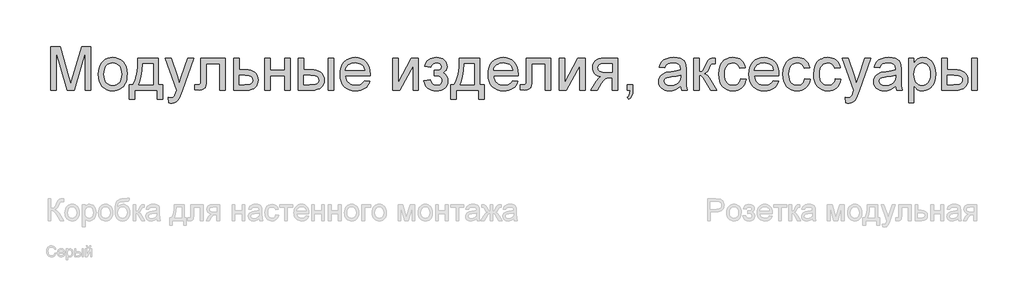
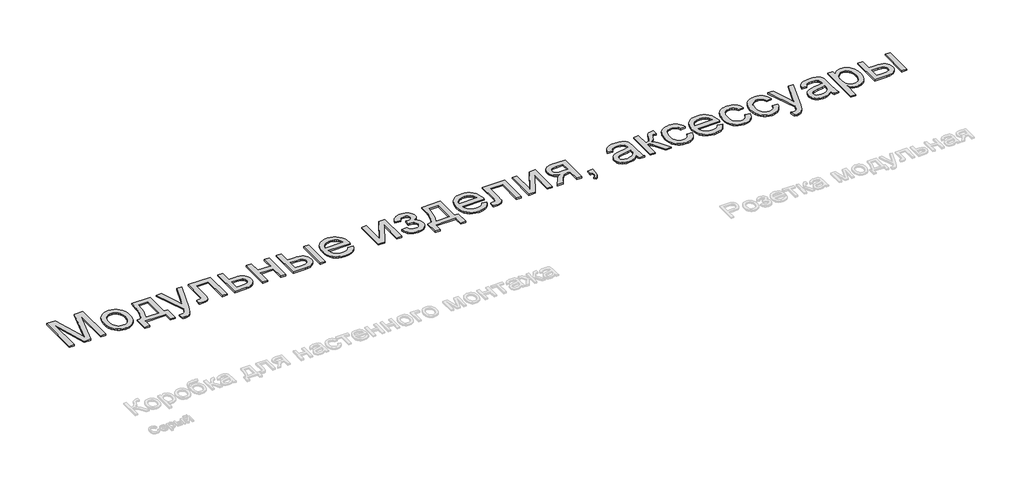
# One storey, part 96 of 168: 1 proxy.
"""IFC4 building model written with IfcOpenShell, lengths in millimetres."""

from ifc_helpers import new_model, si_unit, origin, origin_with_axes, place, context, project, spatial, polyline, outline, extrude, element, save

model = new_model("IFC4")

# Units and contexts
model_context = context("Model", 3, world=origin())
ifc_project = project(units=[si_unit("LENGTHUNIT", "METRE", prefix="MILLI")], contexts=[model_context])

# Site, building, storey
site = spatial("IfcSite", under=ifc_project)
building = spatial("IfcBuilding", under=site)
storey = spatial("IfcBuildingStorey", under=building, Name="Этаж 01", Elevation=0.0)

# Proxy
placement = place(None, origin())
element("IfcBuildingElementProxy", 1, Name="600 мм Arial", ObjectType="600 мм Arial", at=placement, inside=storey, context=model_context, shape_type="SweptSolid", body=[
    extrude(outline(polyline([(32932.0567284, -29166.8622977), (32932.0567284, -28564.1244368), (33061.6983435, -28564.1244368), (33185.0123883, -28988.9545649), (33209.8812112, -29077.6877021), (33236.8101732, -28981.596925), (33358.0640788, -28564.1244368), (33487.7056939, -28564.1244368), (33487.7056939, -29166.8622977), (33412.3634613, -29166.8622977), (33412.3634613, -28639.4666694), (33260.9432321, -29166.8622977), (33158.8191903, -29166.8622977), (33007.398961, -28639.4666694), (33007.398961, -29166.8622977), (32932.0567284, -29166.8622977)])), origin_with_axes(), (0.0, 0.0, 1.0), 20.0),
    extrude(outline(polyline([(33591.3012638, -28945.5444894), (33595.3755569, -28888.2192775), (33607.5984362, -28838.8219226), (33627.9699017, -28797.3524247), (33656.4899533, -28763.8107838), (33685.2031431, -28742.3724605), (33716.8961769, -28727.0593725), (33751.569055, -28717.8715197), (33789.2217772, -28714.8089021), (33830.7878441, -28718.5383058), (33868.3715884, -28729.726517), (33901.9730102, -28748.3735356), (33931.5921093, -28774.4793617), (33955.7665549, -28807.1610784), (33973.0340161, -28845.535769), (33983.3944928, -28889.6034335), (33986.847985, -28939.3640719), (33985.3212747, -28979.6931356), (33980.7411439, -29015.4788567), (33973.1075925, -29046.7212352), (33962.4206205, -29073.420271), (33948.8135852, -29096.4818735), (33932.4198438, -29116.8119523), (33913.2393963, -29134.4105072), (33891.2722426, -29149.2775384), (33867.3737085, -29161.0911489), (33842.3991196, -29169.5294422), (33816.3484758, -29174.5924182), (33789.2217772, -29176.2800768), (33747.048705, -29172.5644687), (33709.1154727, -29161.4176442), (33675.4220805, -29142.8396034), (33645.9685283, -29116.8303464), (33622.0516001, -29083.8313314), (33604.9680799, -29044.2840169), (33594.7179678, -28998.1884029), (33591.3012638, -28945.5444894)]), holes=[polyline([(33666.6434964, -28945.3973366), (33668.8231972, -28981.9418143), (33675.3622997, -29013.5842644), (33686.2608038, -29040.324687), (33701.5187095, -29062.1630819), (33720.0783562, -29079.1270404), (33740.882083, -29091.2441536), (33763.92989, -29098.5144216), (33789.2217772, -29100.9378442), (33814.3849057, -29098.500626), (33837.3407422, -29091.1889713), (33858.0892867, -29079.0028802), (33876.6305392, -29061.9423527), (33891.888445, -29039.8878271), (33902.7869491, -29012.7197418), (33909.3260516, -28980.4380967), (33911.5057524, -28943.0428919), (33909.312256, -28907.6572425), (33902.7317668, -28876.8425268), (33891.7642848, -28850.598745), (33876.40981, -28828.925897), (33857.7995796, -28811.9619385), (33837.0648307, -28799.8448252), (33814.2055632, -28792.5745573), (33789.2217772, -28790.1511347), (33763.92989, -28792.5653603), (33740.882083, -28799.808037), (33720.0783562, -28811.879165), (33701.5187095, -28828.7787442), (33686.2608038, -28850.5527598), (33675.3622997, -28877.247197), (33668.8231972, -28908.862056), (33666.6434964, -28945.3973366)])]), origin_with_axes(), (0.0, 0.0, 1.0), 20.0),
    extrude(outline(polyline([(34137.5324502, -28724.2266811), (34420.0658225, -28724.2266811), (34420.0658225, -29091.5200651), (34476.572497, -29091.5200651), (34476.572497, -29289.2934257), (34401.2302644, -29289.2934257), (34401.2302644, -29166.8622977), (34090.4435548, -29166.8622977), (34090.4435548, -29289.2934257), (34015.1013222, -29289.2934257), (34015.1013222, -29091.5200651), (34062.1902176, -29091.5200651), (34080.5889159, -29063.0873854), (34096.4216373, -29029.6607076), (34109.6883817, -28991.2400318), (34120.3891492, -28947.8253578), (34128.5239399, -28899.4166858), (34134.0927536, -28846.0140156), (34137.5324502, -28724.2266811)]), holes=[polyline([(34203.4569038, -28799.5689137), (34197.2764862, -28891.815324), (34185.798568, -28971.2226527), (34169.023149, -29037.7908997), (34146.9502293, -29091.5200651), (34344.7235899, -29091.5200651), (34344.7235899, -28799.5689137), (34203.4569038, -28799.5689137)])]), origin_with_axes(), (0.0, 0.0, 1.0), 20.0),
    extrude(outline(polyline([(34561.3325087, -29336.3823211), (34551.9147296, -29263.8359917), (34590.1744571, -29270.4578676), (34610.2976022, -29268.3793343), (34625.932587, -29262.1437345), (34638.1094811, -29252.1925265), (34647.8583539, -29238.9671688), (34668.4597457, -29183.4905639), (34674.3458576, -29165.243617), (34514.2436133, -28724.2266811), (34593.7061242, -28724.2266811), (34678.6132887, -28969.9718539), (34708.1910011, -29068.269923), (34737.7687136, -28981.4497722), (34825.0303228, -28724.2266811), (34903.9042226, -28724.2266811), (34749.835243, -29177.4572992), (34709.8096819, -29275.7553683), (34689.3186548, -29307.1357025), (34666.1053009, -29328.8775284), (34639.1395506, -29341.5694572), (34607.3913345, -29345.8001002), (34585.5759321, -29343.4456554), (34561.3325087, -29336.3823211)])), origin_with_axes(), (0.0, 0.0, 1.0), 20.0),
    extrude(outline(polyline([(35003.9681253, -28724.2266811), (35343.008172, -28724.2266811), (35343.008172, -29166.4208393), (35267.6659394, -29166.4208393), (35267.6659394, -28799.5689137), (35079.3103579, -28799.5689137), (35079.3103579, -29010.733179), (35078.041165, -29072.0223194), (35074.2335863, -29108.1483313), (35064.7238368, -29130.2028569), (35046.3481311, -29149.2775384), (35018.4626759, -29162.4661079), (34980.4236776, -29166.8622977), (34919.2081136, -29163.036325), (34919.2081136, -29091.5200651), (34952.9061043, -29091.5200651), (34973.3419492, -29090.3612368), (34986.9719771, -29086.884752), (34995.4884453, -29080.8882755), (35000.5836109, -29072.1694722), (35003.9681253, -29006.4657478), (35003.9681253, -28724.2266811)])), origin_with_axes(), (0.0, 0.0, 1.0), 20.0),
    extrude(outline(polyline([(35456.0215209, -28724.2266811), (35531.3637535, -28724.2266811), (35531.3637535, -28884.3289254), (35618.1839044, -28884.3289254), (35658.2646478, -28886.6879687), (35693.4525606, -28893.7650986), (35723.7476429, -28905.5603151), (35749.1498947, -28922.0736181), (35769.2362516, -28942.7347907), (35783.5836494, -28966.9736157), (35792.1920881, -28994.790093), (35795.0615677, -29026.1842228), (35792.6197509, -29054.1938382), (35785.2943007, -29080.0973292), (35773.085217, -29103.8946957), (35755.9924998, -29125.5859379), (35733.5287055, -29143.6443453), (35705.2063904, -29156.5432078), (35671.0255545, -29164.2825252), (35630.9861978, -29166.8622977), (35456.0215209, -29166.8622977), (35456.0215209, -28724.2266811)]), holes=[polyline([(35531.3637535, -29091.5200651), (35601.702791, -29091.5200651), (35656.278085, -29087.5653337), (35676.7093313, -29082.6219194), (35692.5696438, -29075.7011393), (35704.4476338, -29066.6834319), (35712.9319123, -29055.4492355), (35718.0224794, -29041.99855), (35719.7193351, -29026.3313756), (35714.6977458, -29001.7200701), (35699.6329781, -28979.9782442), (35686.5409776, -28971.093894), (35667.3513331, -28964.7479296), (35610.6791117, -28959.6711581), (35531.3637535, -28959.6711581), (35531.3637535, -29091.5200651)])]), origin_with_axes(), (0.0, 0.0, 1.0), 20.0),
    extrude(outline(polyline([(35889.2393585, -28724.2266811), (35964.5815911, -28724.2266811), (35964.5815911, -28893.7467045), (36162.3549517, -28893.7467045), (36162.3549517, -28724.2266811), (36237.6971843, -28724.2266811), (36237.6971843, -29166.8622977), (36162.3549517, -29166.8622977), (36162.3549517, -28969.0889371), (35964.5815911, -28969.0889371), (35964.5815911, -29166.8622977), (35889.2393585, -29166.8622977), (35889.2393585, -28724.2266811)])), origin_with_axes(), (0.0, 0.0, 1.0), 20.0),
    extrude(outline(polyline([(36765.0928126, -28724.2266811), (36840.4350452, -28724.2266811), (36840.4350452, -29166.8622977), (36765.0928126, -29166.8622977), (36765.0928126, -28724.2266811)])), origin_with_axes(), (0.0, 0.0, 1.0), 20.0),
    extrude(outline(polyline([(36350.7105332, -28724.2266811), (36426.0527658, -28724.2266811), (36426.0527658, -28884.3289254), (36519.200487, -28884.3289254), (36562.063338, -28886.6879687), (36599.7114616, -28893.7650986), (36632.144858, -28905.5603151), (36659.3635272, -28922.0736181), (36680.8984195, -28942.7347907), (36696.2804854, -28966.9736157), (36705.5097249, -28994.790093), (36708.5861381, -29026.1842228), (36706.0063656, -29054.1938382), (36698.2670481, -29080.0973292), (36685.3681857, -29103.8946957), (36667.3097783, -29125.5859379), (36643.5859881, -29143.6443453), (36613.6909775, -29156.5432078), (36577.6247464, -29164.2825252), (36535.3872948, -29166.8622977), (36350.7105332, -29166.8622977), (36350.7105332, -28724.2266811)]), holes=[polyline([(36426.0527658, -29091.5200651), (36503.4551376, -29091.5200651), (36563.456691, -29087.5653337), (36585.9250839, -29082.6219194), (36603.3718875, -29075.7011393), (36616.4408954, -29066.6834319), (36625.775901, -29055.4492355), (36631.3769044, -29041.99855), (36633.2439055, -29026.3313756), (36627.7072815, -29001.7200701), (36611.0974094, -28979.9782442), (36596.6810337, -28971.093894), (36575.5784028, -28964.7479296), (36513.3143751, -28959.6711581), (36426.0527658, -28959.6711581), (36426.0527658, -29091.5200651)])]), origin_with_axes(), (0.0, 0.0, 1.0), 20.0),
    extrude(outline(polyline([(37263.3521868, -29035.0133907), (37337.2228915, -29044.4311697), (37325.8967245, -29074.0180792), (37310.6066291, -29100.0917156), (37291.3526052, -29122.652079), (37268.1346528, -29141.6991693), (37241.1918952, -29156.8283163), (37210.7634556, -29167.6348499), (37176.8493342, -29174.1187701), (37139.4495309, -29176.2800768), (37092.7009263, -29172.5506731), (37051.0474874, -29161.3624619), (37014.4892142, -29142.7154433), (36983.0261065, -29116.6096172), (36957.7250223, -29083.7715506), (36939.6528193, -29044.9278104), (36928.8094975, -29000.0783967), (36925.1950569, -28949.2233094), (36928.8462857, -28896.6437752), (36939.7999721, -28850.2998409), (36958.0561161, -28810.1915064), (36983.6147177, -28776.3187717), (37014.9950519, -28749.4082037), (37050.7163936, -28730.1863695), (37090.7787429, -28718.6532689), (37135.1820997, -28714.8089021), (37178.1553153, -28718.6440719), (37217.0174495, -28730.1495813), (37251.7685025, -28749.3254303), (37282.4084742, -28776.1716189), (37307.4198513, -28809.9707772), (37325.2851207, -28850.0055353), (37336.0042824, -28896.2758932), (37339.5773362, -28948.781851), (37339.1358778, -28969.0889371), (37000.5372895, -28969.0889371), (37004.9012897, -28999.1540932), (37013.5787062, -29025.485247), (37026.5695392, -29048.0823985), (37043.8737885, -29066.9455478), (37064.5349611, -29081.8171775), (37087.5965636, -29092.4397701), (37113.0585962, -29098.8133257), (37140.9210588, -29100.9378442), (37181.0201963, -29097.0015068), (37214.7917635, -29085.1924948), (37242.2357603, -29064.7750441), (37263.3521868, -29035.0133907)]), holes=[polyline([(37000.5372895, -28893.7467045), (37264.2351036, -28893.7467045), (37254.0447724, -28853.9418726), (37245.2799838, -28838.2884937), (37234.06878, -28825.4678062), (37213.5225706, -28810.0167624), (37190.1436698, -28798.9803026), (37163.9320776, -28792.3584266), (37134.8877941, -28790.1511347), (37108.3956919, -28791.9123697), (37084.1016847, -28797.1960749), (37062.0057724, -28806.0022501), (37042.1079549, -28818.3308955), (37025.4107109, -28833.6117939), (37012.9165186, -28851.2747282), (37004.6253782, -28871.3196984), (37000.5372895, -28893.7467045)])]), origin_with_axes(), (0.0, 0.0, 1.0), 20.0),
    extrude(outline(polyline([(37650.3640458, -28724.2266811), (37725.7062784, -28724.2266811), (37725.7062784, -29061.7951999), (37910.8244984, -28724.2266811), (38008.2396507, -28724.2266811), (38008.2396507, -29166.8622977), (37932.8974181, -29166.8622977), (37932.8974181, -28831.3539181), (37748.9564205, -29166.8622977), (37650.3640458, -29166.8622977), (37650.3640458, -28724.2266811)])), origin_with_axes(), (0.0, 0.0, 1.0), 20.0),
    extrude(outline(polyline([(38224.8485694, -28969.0889371), (38224.8485694, -28893.7467045), (38284.2982999, -28890.8036486), (38299.7493437, -28885.5613301), (38314.3174707, -28875.1318756), (38324.9124721, -28860.4349899), (38328.4441393, -28842.390378), (38323.7168556, -28820.9612518), (38309.5350047, -28804.3513797), (38287.8851493, -28793.7011959), (38260.7538522, -28790.1511347), (38233.3282494, -28793.6828018), (38210.3540188, -28804.2778033), (38191.8311604, -28821.9361391), (38177.7596741, -28846.6578091), (38092.9996624, -28837.2400301), (38102.7761264, -28808.5452344), (38115.4772523, -28783.6764116), (38131.10304, -28762.6335614), (38149.6534896, -28745.4166841), (38171.1286011, -28732.0257794), (38195.5283744, -28722.4608476), (38222.8528096, -28716.7218884), (38253.1019067, -28714.8089021), (38286.5055918, -28717.1403542), (38316.0833042, -28724.1347106), (38341.8350439, -28735.7919714), (38363.7608108, -28752.1121364), (38381.2719938, -28771.6696629), (38393.7799816, -28793.0390083), (38401.2847743, -28816.2201726), (38403.7863719, -28841.2131556), (38400.2271136, -28865.9348257), (38389.5493387, -28888.0077454), (38371.7530472, -28907.4319147), (38346.838239, -28924.2073337), (38375.9193108, -28945.1398192), (38396.6494612, -28971.1490763), (38409.0654785, -29002.3086813), (38413.204151, -29038.6922106), (38410.5783932, -29067.8606543), (38402.70112, -29094.1504214), (38389.5723313, -29117.5615119), (38371.1920271, -29138.0939257), (38348.0936363, -29154.8003668), (38320.8105879, -29166.733539), (38289.3428817, -29173.8934424), (38253.6905179, -29176.2800768), (38218.9394649, -29174.0727848), (38188.0419758, -29167.4509089), (38160.9980506, -29156.4144491), (38137.8076894, -29140.9634053), (38118.470892, -29121.0977775), (38102.9876585, -29096.8175659), (38091.357989, -29068.1227702), (38083.5818833, -29035.0133907), (38168.341895, -29025.5956116), (38181.0338238, -29057.4541924), (38202.3341913, -29081.2193693), (38229.7781882, -29096.0082255), (38260.901005, -29100.9378442), (38291.2144814, -29096.2105606), (38315.9361514, -29082.0287096), (38332.3804766, -29060.4892188), (38337.8619184, -29033.6890155), (38334.4590099, -29012.4622244), (38324.2502845, -28994.1049128), (38310.1971923, -28980.3461262), (38295.2611833, -28972.9149099), (38239.5638492, -28968.6474787), (38224.8485694, -28969.0889371)])), origin_with_axes(), (0.0, 0.0, 1.0), 20.0),
    extrude(outline(polyline([(38573.3063953, -28724.2266811), (38855.8397676, -28724.2266811), (38855.8397676, -29091.5200651), (38912.346442, -29091.5200651), (38912.346442, -29289.2934257), (38837.0042094, -29289.2934257), (38837.0042094, -29166.8622977), (38526.2174999, -29166.8622977), (38526.2174999, -29289.2934257), (38450.8752673, -29289.2934257), (38450.8752673, -29091.5200651), (38497.9641627, -29091.5200651), (38516.3628609, -29063.0873854), (38532.1955823, -29029.6607076), (38545.4623268, -28991.2400318), (38556.1630943, -28947.8253578), (38564.2978849, -28899.4166858), (38569.8666986, -28846.0140156), (38573.3063953, -28724.2266811)]), holes=[polyline([(38639.2308488, -28799.5689137), (38633.0504313, -28891.815324), (38621.572513, -28971.2226527), (38604.7970941, -29037.7908997), (38582.7241743, -29091.5200651), (38780.4975349, -29091.5200651), (38780.4975349, -28799.5689137), (38639.2308488, -28799.5689137)])]), origin_with_axes(), (0.0, 0.0, 1.0), 20.0),
    extrude(outline(polyline([(39307.0102464, -29035.0133907), (39380.8809511, -29044.4311697), (39369.5547842, -29074.0180792), (39354.2646887, -29100.0917156), (39335.0106648, -29122.652079), (39311.7927124, -29141.6991693), (39284.8499548, -29156.8283163), (39254.4215152, -29167.6348499), (39220.5073938, -29174.1187701), (39183.1075905, -29176.2800768), (39136.3589859, -29172.5506731), (39094.705547, -29161.3624619), (39058.1472738, -29142.7154433), (39026.6841661, -29116.6096172), (39001.3830819, -29083.7715506), (38983.3108789, -29044.9278104), (38972.4675571, -29000.0783967), (38968.8531165, -28949.2233094), (38972.5043453, -28896.6437752), (38983.4580317, -28850.2998409), (39001.7141757, -28810.1915064), (39027.2727773, -28776.3187717), (39058.6531115, -28749.4082037), (39094.3744532, -28730.1863695), (39134.4368025, -28718.6532689), (39178.8401593, -28714.8089021), (39221.8133749, -28718.6440719), (39260.6755092, -28730.1495813), (39295.4265621, -28749.3254303), (39326.0665338, -28776.1716189), (39351.0779109, -28809.9707772), (39368.9431803, -28850.0055353), (39379.662342, -28896.2758932), (39383.2353958, -28948.781851), (39382.7939375, -28969.0889371), (39044.1953491, -28969.0889371), (39048.5593493, -28999.1540932), (39057.2367658, -29025.485247), (39070.2275988, -29048.0823985), (39087.5318481, -29066.9455478), (39108.1930207, -29081.8171775), (39131.2546232, -29092.4397701), (39156.7166558, -29098.8133257), (39184.5791185, -29100.9378442), (39224.6782559, -29097.0015068), (39258.4498231, -29085.1924948), (39285.8938199, -29064.7750441), (39307.0102464, -29035.0133907)]), holes=[polyline([(39044.1953491, -28893.7467045), (39307.8931632, -28893.7467045), (39297.702832, -28853.9418726), (39288.9380434, -28838.2884937), (39277.7268396, -28825.4678062), (39257.1806302, -28810.0167624), (39233.8017294, -28798.9803026), (39207.5901372, -28792.3584266), (39178.5458537, -28790.1511347), (39152.0537516, -28791.9123697), (39127.7597443, -28797.1960749), (39105.663832, -28806.0022501), (39085.7660145, -28818.3308955), (39069.0687705, -28833.6117939), (39056.5745782, -28851.2747282), (39048.2834378, -28871.3196984), (39044.1953491, -28893.7467045)])]), origin_with_axes(), (0.0, 0.0, 1.0), 20.0),
    extrude(outline(polyline([(39496.2487448, -28724.2266811), (39835.2887915, -28724.2266811), (39835.2887915, -29166.4208393), (39759.9465589, -29166.4208393), (39759.9465589, -28799.5689137), (39571.5909774, -28799.5689137), (39571.5909774, -29010.733179), (39570.3217845, -29072.0223194), (39566.5142058, -29108.1483313), (39557.0044563, -29130.2028569), (39538.6287506, -29149.2775384), (39510.7432954, -29162.4661079), (39472.7042971, -29166.8622977), (39411.4887331, -29163.036325), (39411.4887331, -29091.5200651), (39445.1867238, -29091.5200651), (39465.6225687, -29090.3612368), (39479.2525966, -29086.884752), (39487.7690648, -29080.8882755), (39492.8642304, -29072.1694722), (39496.2487448, -29006.4657478), (39496.2487448, -28724.2266811)])), origin_with_axes(), (0.0, 0.0, 1.0), 20.0),
    extrude(outline(polyline([(39948.3021404, -28724.2266811), (40023.644373, -28724.2266811), (40023.644373, -29061.7951999), (40208.762593, -28724.2266811), (40306.1777453, -28724.2266811), (40306.1777453, -29166.8622977), (40230.8355127, -29166.8622977), (40230.8355127, -28831.3539181), (40046.8945151, -29166.8622977), (39948.3021404, -29166.8622977), (39948.3021404, -28724.2266811)])), origin_with_axes(), (0.0, 0.0, 1.0), 20.0),
    extrude(outline(polyline([(40758.231141, -28724.2266811), (40758.231141, -29166.8622977), (40682.8889084, -29166.8622977), (40682.8889084, -28997.3422744), (40641.8332777, -28997.3422744), (40609.0917802, -28999.7335073), (40585.9152145, -29006.9072062), (40563.5847774, -29027.7661154), (40533.3816656, -29071.212979), (40473.343324, -29166.8622977), (40386.2288675, -29166.8622977), (40461.8654057, -29045.9026977), (40495.2690909, -29002.4926223), (40510.9776521, -28989.8374817), (40526.0240257, -28983.2156057), (40498.3592996, -28977.0995676), (40474.5205463, -28967.4334681), (40454.5077658, -28954.2173075), (40438.320958, -28937.4510855), (40425.8313643, -28918.2108572), (40416.9102259, -28897.5726773), (40411.5575429, -28875.5365458), (40409.7733152, -28852.1024627), (40412.2105334, -28824.9711655), (40419.5221881, -28800.5254069), (40431.7082791, -28778.7651869), (40448.7688067, -28759.6905055), (40470.4462532, -28744.1750823), (40496.4831015, -28733.0926372), (40526.8793513, -28726.4431702), (40561.6350028, -28724.2266811), (40758.231141, -28724.2266811)]), holes=[polyline([(40682.8889084, -28799.5689137), (40583.5607697, -28799.5689137), (40532.2596255, -28803.9283154), (40514.927785, -28809.3775674), (40503.1417656, -28817.0065203), (40489.6221022, -28835.934049), (40485.1155478, -28857.8414218), (40486.7756153, -28873.2970641), (40491.7558178, -28886.5546115), (40500.0561553, -28897.614064), (40511.6766279, -28906.4754215), (40527.5185463, -28913.2674429), (40548.4832215, -28918.1188867), (40605.7808422, -28922.0000417), (40682.8889084, -28922.0000417), (40682.8889084, -28799.5689137)])]), origin_with_axes(), (0.0, 0.0, 1.0), 20.0),
    extrude(outline(polyline([(40890.0800481, -29166.8622977), (40890.0800481, -29091.5200651), (40965.4222807, -29091.5200651), (40965.4222807, -29166.8622977), (40962.0377663, -29209.9596735), (40951.8842233, -29243.8967875), (40934.3730403, -29269.9244387), (40908.9156062, -29289.2934257), (40890.0800481, -29261.0400885), (40906.4140087, -29247.3916665), (40917.7447741, -29228.5193201), (40924.6241674, -29202.3629103), (40927.6040116, -29166.8622977), (40890.0800481, -29166.8622977)])), origin_with_axes(), (0.0, 0.0, 1.0), 20.0),
    extrude(outline(polyline([(41624.6668161, -29110.3556233), (41588.6695628, -29141.2209227), (41551.6054518, -29161.4176442), (41512.6283544, -29172.5644687), (41470.8921421, -29176.2800768), (41437.3459026, -29174.0451937), (41407.9291386, -29167.3405443), (41382.64185, -29156.1661287), (41361.4840367, -29140.5219469), (41344.7775956, -29121.4012802), (41332.8444234, -29099.79741), (41325.6845201, -29075.7103364), (41323.2978856, -29049.1400593), (41326.9031292, -29017.9068779), (41337.7188598, -28989.5431761), (41354.4023083, -28965.2629644), (41375.6107053, -28946.2802534), (41400.5347105, -28931.9328556), (41428.3649834, -28921.5585833), (41493.553673, -28910.2278179), (41570.5881628, -28898.3084413), (41624.2253577, -28884.3289254), (41624.6668161, -28867.5535065), (41619.4796799, -28833.9290921), (41612.9957598, -28821.4762866), (41603.9182715, -28811.9297488), (41588.2281044, -28802.4016051), (41569.1166348, -28795.5957882), (41520.6297878, -28790.1511347), (41475.7481844, -28793.7747723), (41444.4046384, -28804.6456853), (41423.0306945, -28824.7504363), (41408.0578973, -28856.0755882), (41332.7156647, -28846.6578091), (41345.7938696, -28805.4550257), (41365.3100095, -28773.0814101), (41393.0851001, -28748.3229518), (41430.9401574, -28729.9656403), (41477.2381065, -28718.5980866), (41530.3418725, -28714.8089021), (41581.2751347, -28718.1566282), (41621.6501837, -28728.1998067), (41652.0924188, -28743.3013626), (41673.2272394, -28761.824221), (41687.2435434, -28784.7248752), (41696.3302287, -28812.9598184), (41700.0090487, -28878.8842719), (41700.0090487, -28972.6206043), (41703.8350214, -29103.5130182), (41709.5004041, -29135.8682396), (41718.8446068, -29166.8622977), (41643.5023742, -29166.8622977), (41631.4358448, -29140.6690997), (41624.6668161, -29110.3556233)]), holes=[polyline([(41624.6668161, -28959.6711581), (41574.0462535, -28972.2159341), (41503.1186049, -28982.7741473), (41438.2977973, -28994.9878296), (41421.4304078, -29003.3387509), (41408.9408141, -29014.8534573), (41401.2152922, -29028.6490321), (41398.6401182, -29043.8425585), (41404.2503186, -29066.2465721), (41421.0809199, -29084.6038836), (41448.7640401, -29096.8543541), (41486.9317971, -29100.9378442), (41527.3988165, -29096.4312898), (41563.1569465, -29082.9116264), (41592.1460477, -29062.9908164), (41612.305981, -29039.2808218), (41621.2455135, -29014.8534573), (41624.2253577, -28981.0083138), (41624.6668161, -28959.6711581)])]), origin_with_axes(), (0.0, 0.0, 1.0), 20.0),
    extrude(outline(polyline([(41803.6046185, -28724.2266811), (41878.9468511, -28724.2266811), (41878.9468511, -28912.5822627), (41909.5914213, -28909.1977483), (41929.4202609, -28899.0442052), (41946.968232, -28872.5567016), (41970.7701971, -28820.1703055), (41989.9552432, -28777.3304471), (42005.1303755, -28752.1121364), (42019.2938323, -28738.3717439), (42035.4438519, -28729.9656403), (42057.7926831, -28725.6614209), (42090.5525748, -28724.2266811), (42104.973549, -28724.2266811), (42104.973549, -28800.0103721), (42084.6664628, -28799.5689137), (42061.1220151, -28801.5554765), (42047.8782633, -28807.5151648), (42037.1361091, -28824.1066428), (42021.9793708, -28857.1056578), (42006.0684746, -28890.1598551), (41991.592318, -28910.7428527), (41974.062741, -28924.4832452), (41948.991583, -28937.0096271), (41972.8671245, -28947.6138257), (41996.5219368, -28966.3298222), (42019.9560199, -28993.1576167), (42043.1693738, -29028.0972092), (42123.8091071, -29166.8622977), (42038.1661786, -29166.8622977), (41959.1451261, -29031.0402651), (41937.8079704, -28994.8958591), (41919.4138706, -28973.5770975), (41900.8358298, -28963.1476429), (41878.9468511, -28959.6711581), (41878.9468511, -29166.8622977), (41803.6046185, -29166.8622977), (41803.6046185, -28724.2266811)])), origin_with_axes(), (0.0, 0.0, 1.0), 20.0),
    extrude(outline(polyline([(42453.4313748, -29006.7600534), (42528.7736074, -29016.1778325), (42520.579036, -29051.7290288), (42507.7675455, -29083.1875379), (42490.339136, -29110.5533598), (42468.2938074, -29133.8264946), (42442.5604618, -29152.3999368), (42414.0680013, -29165.6666812), (42382.8164258, -29173.6267279), (42348.8057354, -29176.2800768), (42306.5498897, -29172.5782642), (42268.6626427, -29161.4728265), (42235.1439944, -29142.9637636), (42205.9939448, -29117.0510756), (42182.3989134, -29084.222206), (42165.5453195, -29044.9645986), (42155.4331631, -28999.2782534), (42152.0624443, -28947.1631702), (42157.8197976, -28880.1166766), (42165.0164891, -28849.9457545), (42175.0918572, -28822.0097155), (42188.1148799, -28796.8695796), (42204.1545349, -28775.086367), (42223.2108222, -28756.6600775), (42245.2837419, -28741.5907113), (42269.3754141, -28729.8736698), (42294.4879588, -28721.5043544), (42320.621376, -28716.4827651), (42347.7756658, -28714.8089021), (42381.2023436, -28717.1081645), (42411.437645, -28724.0059519), (42438.4815702, -28735.5022643), (42462.3341191, -28751.5971016), (42482.5906214, -28771.9225818), (42498.8464071, -28796.110823), (42511.1014761, -28824.1618251), (42519.3558283, -28856.0755882), (42444.0135957, -28865.4933673), (42430.3467796, -28832.623111), (42409.0648062, -28809.0602692), (42381.3448978, -28794.8784183), (42348.364277, -28790.1511347), (42322.7642886, -28792.4779883), (42299.6750949, -28799.4585492), (42279.0966958, -28811.0928172), (42261.0290913, -28827.3807926), (42246.31841, -28848.6995542), (42235.8107805, -28875.4261812), (42229.5062029, -28907.5606734), (42227.404677, -28945.103031), (42229.4602176, -28983.2110072), (42235.6268395, -29015.71798), (42245.9045428, -29042.6239494), (42260.2933273, -29063.9289155), (42278.0022469, -29080.1203218), (42298.2403551, -29091.685612), (42321.0076521, -29098.6247862), (42346.3041378, -29100.9378442), (42385.3180234, -29095.1620969), (42402.1900114, -29087.9424127), (42417.3053629, -29077.8348549), (42430.2410135, -29064.7290588), (42440.5738991, -29048.5146599), (42448.3040195, -29029.1916581), (42453.4313748, -29006.7600534)])), origin_with_axes(), (0.0, 0.0, 1.0), 20.0),
    extrude(outline(polyline([(42904.6018537, -29035.0133907), (42978.4725583, -29044.4311697), (42967.1463914, -29074.0180792), (42951.856296, -29100.0917156), (42932.602272, -29122.652079), (42909.3843196, -29141.6991693), (42882.441562, -29156.8283163), (42852.0131225, -29167.6348499), (42818.099001, -29174.1187701), (42780.6991977, -29176.2800768), (42733.9505932, -29172.5506731), (42692.2971543, -29161.3624619), (42655.738881, -29142.7154433), (42624.2757734, -29116.6096172), (42598.9746891, -29083.7715506), (42580.9024861, -29044.9278104), (42570.0591643, -29000.0783967), (42566.4447237, -28949.2233094), (42570.0959525, -28896.6437752), (42581.0496389, -28850.2998409), (42599.3057829, -28810.1915064), (42624.8643845, -28776.3187717), (42656.2447187, -28749.4082037), (42691.9660605, -28730.1863695), (42732.0284097, -28718.6532689), (42776.4317666, -28714.8089021), (42819.4049821, -28718.6440719), (42858.2671164, -28730.1495813), (42893.0181694, -28749.3254303), (42923.658141, -28776.1716189), (42948.6695182, -28809.9707772), (42966.5347876, -28850.0055353), (42977.2539492, -28896.2758932), (42980.8270031, -28948.781851), (42980.3855447, -28969.0889371), (42641.7869563, -28969.0889371), (42646.1509565, -28999.1540932), (42654.8283731, -29025.485247), (42667.819206, -29048.0823985), (42685.1234554, -29066.9455478), (42705.7846279, -29081.8171775), (42728.8462305, -29092.4397701), (42754.3082631, -29098.8133257), (42782.1707257, -29100.9378442), (42822.2698632, -29097.0015068), (42856.0414303, -29085.1924948), (42883.4854272, -29064.7750441), (42904.6018537, -29035.0133907)]), holes=[polyline([(42641.7869563, -28893.7467045), (42905.4847705, -28893.7467045), (42895.2944392, -28853.9418726), (42886.5296507, -28838.2884937), (42875.3184469, -28825.4678062), (42854.7722374, -28810.0167624), (42831.3933366, -28798.9803026), (42805.1817445, -28792.3584266), (42776.137461, -28790.1511347), (42749.6453588, -28791.9123697), (42725.3513515, -28797.1960749), (42703.2554392, -28806.0022501), (42683.3576218, -28818.3308955), (42666.6603777, -28833.6117939), (42654.1661855, -28851.2747282), (42645.875045, -28871.3196984), (42641.7869563, -28893.7467045)])]), origin_with_axes(), (0.0, 0.0, 1.0), 20.0),
    extrude(outline(polyline([(43338.702608, -29006.7600534), (43414.0448406, -29016.1778325), (43405.8502692, -29051.7290288), (43393.0387787, -29083.1875379), (43375.6103692, -29110.5533598), (43353.5650406, -29133.8264946), (43327.831695, -29152.3999368), (43299.3392345, -29165.6666812), (43268.087659, -29173.6267279), (43234.0769686, -29176.2800768), (43191.8211229, -29172.5782642), (43153.9338759, -29161.4728265), (43120.4152276, -29142.9637636), (43091.265178, -29117.0510756), (43067.6701466, -29084.222206), (43050.8165527, -29044.9645986), (43040.7043963, -28999.2782534), (43037.3336775, -28947.1631702), (43043.0910308, -28880.1166766), (43050.2877223, -28849.9457545), (43060.3630904, -28822.0097155), (43073.3861131, -28796.8695796), (43089.4257681, -28775.086367), (43108.4820554, -28756.6600775), (43130.5549751, -28741.5907113), (43154.6466473, -28729.8736698), (43179.759192, -28721.5043544), (43205.8926092, -28716.4827651), (43233.046899, -28714.8089021), (43266.4735768, -28717.1081645), (43296.7088782, -28724.0059519), (43323.7528034, -28735.5022643), (43347.6053523, -28751.5971016), (43367.8618546, -28771.9225818), (43384.1176403, -28796.110823), (43396.3727093, -28824.1618251), (43404.6270615, -28856.0755882), (43329.2848289, -28865.4933673), (43315.6180128, -28832.623111), (43294.3360394, -28809.0602692), (43266.616131, -28794.8784183), (43233.6355102, -28790.1511347), (43208.0355218, -28792.4779883), (43184.9463281, -28799.4585492), (43164.367929, -28811.0928172), (43146.3003245, -28827.3807926), (43131.5896432, -28848.6995542), (43121.0820137, -28875.4261812), (43114.777436, -28907.5606734), (43112.6759102, -28945.103031), (43114.7314508, -28983.2110072), (43120.8980727, -29015.71798), (43131.175776, -29042.6239494), (43145.5645605, -29063.9289155), (43163.2734801, -29080.1203218), (43183.5115883, -29091.685612), (43206.2788853, -29098.6247862), (43231.575371, -29100.9378442), (43270.5892566, -29095.1620969), (43287.4612446, -29087.9424127), (43302.5765961, -29077.8348549), (43315.5122467, -29064.7290588), (43325.8451323, -29048.5146599), (43333.5752527, -29029.1916581), (43338.702608, -29006.7600534)])), origin_with_axes(), (0.0, 0.0, 1.0), 20.0),
    extrude(outline(polyline([(43762.5026664, -29006.7600534), (43837.844899, -29016.1778325), (43829.6503276, -29051.7290288), (43816.8388371, -29083.1875379), (43799.4104276, -29110.5533598), (43777.365099, -29133.8264946), (43751.6317535, -29152.3999368), (43723.1392929, -29165.6666812), (43691.8877175, -29173.6267279), (43657.877027, -29176.2800768), (43615.6211813, -29172.5782642), (43577.7339344, -29161.4728265), (43544.2152861, -29142.9637636), (43515.0652365, -29117.0510756), (43491.470205, -29084.222206), (43474.6166111, -29044.9645986), (43464.5044548, -28999.2782534), (43461.133736, -28947.1631702), (43466.8910892, -28880.1166766), (43474.0877807, -28849.9457545), (43484.1631489, -28822.0097155), (43497.1861715, -28796.8695796), (43513.2258265, -28775.086367), (43532.2821138, -28756.6600775), (43554.3550336, -28741.5907113), (43578.4467057, -28729.8736698), (43603.5592504, -28721.5043544), (43629.6926676, -28716.4827651), (43656.8469574, -28714.8089021), (43690.2736352, -28717.1081645), (43720.5089367, -28724.0059519), (43747.5528619, -28735.5022643), (43771.4054107, -28751.5971016), (43791.6619131, -28771.9225818), (43807.9176987, -28796.110823), (43820.1727677, -28824.1618251), (43828.42712, -28856.0755882), (43753.0848874, -28865.4933673), (43739.4180712, -28832.623111), (43718.1360978, -28809.0602692), (43690.4161895, -28794.8784183), (43657.4355686, -28790.1511347), (43631.8355803, -28792.4779883), (43608.7463865, -28799.4585492), (43588.1679874, -28811.0928172), (43570.100383, -28827.3807926), (43555.3897017, -28848.6995542), (43544.8820722, -28875.4261812), (43538.5774945, -28907.5606734), (43536.4759686, -28945.103031), (43538.5315092, -28983.2110072), (43544.6981312, -29015.71798), (43554.9758344, -29042.6239494), (43569.364619, -29063.9289155), (43587.0735385, -29080.1203218), (43607.3116468, -29091.685612), (43630.0789437, -29098.6247862), (43655.3754294, -29100.9378442), (43694.389315, -29095.1620969), (43711.261303, -29087.9424127), (43726.3766545, -29077.8348549), (43739.3123052, -29064.7290588), (43749.6451907, -29048.5146599), (43757.3753111, -29029.1916581), (43762.5026664, -29006.7600534)])), origin_with_axes(), (0.0, 0.0, 1.0), 20.0),
    extrude(outline(polyline([(43903.7693526, -29336.3823211), (43894.3515735, -29263.8359917), (43932.611301, -29270.4578676), (43952.7344461, -29268.3793343), (43968.3694309, -29262.1437345), (43980.546325, -29252.1925265), (43990.2951978, -29238.9671688), (44010.8965896, -29183.4905639), (44016.7827015, -29165.243617), (43856.6804572, -28724.2266811), (43936.1429682, -28724.2266811), (44021.0501326, -28969.9718539), (44050.6278451, -29068.269923), (44080.2055575, -28981.4497722), (44167.4671667, -28724.2266811), (44246.3410665, -28724.2266811), (44092.2720869, -29177.4572992), (44052.2465258, -29275.7553683), (44031.7554987, -29307.1357025), (44008.5421448, -29328.8775284), (43981.5763946, -29341.5694572), (43949.8281784, -29345.8001002), (43928.0127761, -29343.4456554), (43903.7693526, -29336.3823211)])), origin_with_axes(), (0.0, 0.0, 1.0), 20.0),
    extrude(outline(polyline([(44591.2672252, -29110.3556233), (44555.2699719, -29141.2209227), (44518.2058609, -29161.4176442), (44479.2287635, -29172.5644687), (44437.4925512, -29176.2800768), (44403.9463117, -29174.0451937), (44374.5295477, -29167.3405443), (44349.2422591, -29156.1661287), (44328.0844458, -29140.5219469), (44311.3780047, -29121.4012802), (44299.4448325, -29099.79741), (44292.2849292, -29075.7103364), (44289.8982947, -29049.1400593), (44293.5035383, -29017.9068779), (44304.3192689, -28989.5431761), (44321.0027174, -28965.2629644), (44342.2111144, -28946.2802534), (44367.1351196, -28931.9328556), (44394.9653925, -28921.5585833), (44460.1540821, -28910.2278179), (44537.1885719, -28898.3084413), (44590.8257668, -28884.3289254), (44591.2672252, -28867.5535065), (44586.080089, -28833.9290921), (44579.5961689, -28821.4762866), (44570.5186806, -28811.9297488), (44554.8285135, -28802.4016051), (44535.7170439, -28795.5957882), (44487.2301969, -28790.1511347), (44442.3485935, -28793.7747723), (44411.0050475, -28804.6456853), (44389.6311036, -28824.7504363), (44374.6583064, -28856.0755882), (44299.3160738, -28846.6578091), (44312.3942787, -28805.4550257), (44331.9104186, -28773.0814101), (44359.6855092, -28748.3229518), (44397.5405665, -28729.9656403), (44443.8385156, -28718.5980866), (44496.9422816, -28714.8089021), (44547.8755438, -28718.1566282), (44588.2505928, -28728.1998067), (44618.6928279, -28743.3013626), (44639.8276485, -28761.824221), (44653.8439525, -28784.7248752), (44662.9306378, -28812.9598184), (44666.6094578, -28878.8842719), (44666.6094578, -28972.6206043), (44670.4354305, -29103.5130182), (44676.1008133, -29135.8682396), (44685.4450159, -29166.8622977), (44610.1027833, -29166.8622977), (44598.0362539, -29140.6690997), (44591.2672252, -29110.3556233)]), holes=[polyline([(44591.2672252, -28959.6711581), (44540.6466626, -28972.2159341), (44469.719014, -28982.7741473), (44404.8982064, -28994.9878296), (44388.0308169, -29003.3387509), (44375.5412232, -29014.8534573), (44367.8157013, -29028.6490321), (44365.2405273, -29043.8425585), (44370.8507278, -29066.2465721), (44387.681329, -29084.6038836), (44415.3644492, -29096.8543541), (44453.5322062, -29100.9378442), (44493.9992256, -29096.4312898), (44529.7573556, -29082.9116264), (44558.7464568, -29062.9908164), (44578.9063901, -29039.2808218), (44587.8459226, -29014.8534573), (44590.8257668, -28981.0083138), (44591.2672252, -28959.6711581)])]), origin_with_axes(), (0.0, 0.0, 1.0), 20.0),
    extrude(outline(polyline([(44770.2050276, -29336.3823211), (44770.2050276, -28724.2266811), (44845.5472602, -28724.2266811), (44845.5472602, -28798.0973858), (44870.1217775, -28761.6586741), (44897.6393507, -28735.631023), (44929.7186607, -28720.0144323), (44967.9783882, -28714.8089021), (44994.2543597, -28716.6299179), (45018.9300446, -28722.0929656), (45042.0054427, -28731.1980449), (45063.4805542, -28743.9451561), (45082.8863294, -28760.0032052), (45099.7537189, -28779.0410984), (45114.0827226, -28801.0588358), (45125.8733406, -28826.0564174), (45141.6554781, -28881.5698105), (45146.9161907, -28942.1599751), (45140.9748965, -29006.5945065), (45133.5482787, -29036.2595909), (45123.1510138, -29064.2232211), (45109.9256561, -29089.7542315), (45094.0147598, -29112.1214569), (45075.4183249, -29131.324897), (45054.1363515, -29147.364552), (45031.2127047, -29160.0150941), (45007.6912496, -29169.0511956), (44983.5719863, -29174.4728565), (44958.8549147, -29176.2800768), (44924.2188249, -29171.4424286), (44893.2983432, -29156.9294839), (44866.8292337, -29135.0221111), (44845.5472602, -29108.0011785), (44845.5472602, -29336.3823211), (44770.2050276, -29336.3823211)]), holes=[polyline([(44845.5472602, -28949.0761566), (44847.5844068, -28985.3861095), (44853.6958464, -29016.6192909), (44863.8815792, -29042.7757008), (44878.141605, -29063.8553391), (44895.3078986, -29080.0789351), (44914.2124346, -29091.6672179), (44934.8552131, -29098.6201876), (44957.236234, -29100.9378442), (44979.9391516, -29098.5374142), (45000.9590091, -29091.3361241), (45020.2958065, -29079.333974), (45037.9495437, -29062.5309639), (45052.660225, -29040.6879704), (45063.1678545, -29013.5658703), (45069.4724322, -28981.1646636), (45071.5739581, -28943.4843503), (45069.5230159, -28907.487097), (45063.3701896, -28876.3090979), (45053.115479, -28849.950353), (45038.7588841, -28828.4108622), (45021.5512038, -28811.6722314), (45002.7432368, -28799.7160665), (44982.3349831, -28792.5423676), (44960.3264427, -28790.1511347), (44938.3868802, -28792.694119), (44917.7441018, -28800.3230718), (44898.3981074, -28813.0379933), (44880.348897, -28830.8388833), (44865.1231809, -28853.4866187), (44854.2476694, -28880.742076), (44847.7223625, -28912.6052553), (44845.5472602, -28949.0761566)])]), origin_with_axes(), (0.0, 0.0, 1.0), 20.0),
    extrude(outline(polyline([(45646.0584817, -28724.2266811), (45721.4007143, -28724.2266811), (45721.4007143, -29166.8622977), (45646.0584817, -29166.8622977), (45646.0584817, -28724.2266811)])), origin_with_axes(), (0.0, 0.0, 1.0), 20.0),
    extrude(outline(polyline([(45231.6762024, -28724.2266811), (45307.018435, -28724.2266811), (45307.018435, -28884.3289254), (45400.1661562, -28884.3289254), (45443.0290071, -28886.6879687), (45480.6771308, -28893.7650986), (45513.1105272, -28905.5603151), (45540.3291963, -28922.0736181), (45561.8640886, -28942.7347907), (45577.2461545, -28966.9736157), (45586.4753941, -28994.790093), (45589.5518073, -29026.1842228), (45586.9720348, -29054.1938382), (45579.2327173, -29080.0973292), (45566.3338549, -29103.8946957), (45548.2754474, -29125.5859379), (45524.5516573, -29143.6443453), (45494.6566466, -29156.5432078), (45458.5904155, -29164.2825252), (45416.3529639, -29166.8622977), (45231.6762024, -29166.8622977), (45231.6762024, -28724.2266811)]), holes=[polyline([(45307.018435, -29091.5200651), (45384.4208068, -29091.5200651), (45444.4223602, -29087.5653337), (45466.890753, -29082.6219194), (45484.3375567, -29075.7011393), (45497.4065645, -29066.6834319), (45506.7415702, -29055.4492355), (45512.3425735, -29041.99855), (45514.2095747, -29026.3313756), (45508.6729506, -29001.7200701), (45492.0630786, -28979.9782442), (45477.6467029, -28971.093894), (45456.5440719, -28964.7479296), (45394.2800442, -28959.6711581), (45307.018435, -28959.6711581), (45307.018435, -29091.5200651)])]), origin_with_axes(), (0.0, 0.0, 1.0), 20.0),
])

save(model, "model.ifc")
